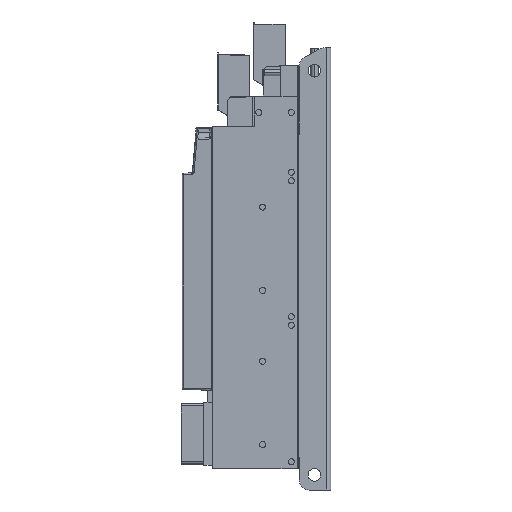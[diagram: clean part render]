
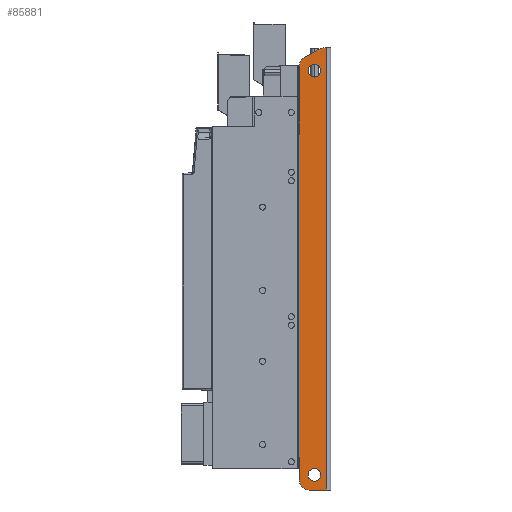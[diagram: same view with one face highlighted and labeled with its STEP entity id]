
A CAD part, left-side view. The second image highlights one B-rep face of the part: STEP entity #85881.
In plain terms, the highlighted planar face has unit normal (-1, 0, 0).
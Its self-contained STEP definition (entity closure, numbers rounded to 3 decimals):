
#313 = CARTESIAN_POINT ( 'NONE',  ( -163., 25., 774.727 ) ) ;
#922 = EDGE_CURVE ( 'NONE', #90921, #26706, #41604, .T. ) ;
#1933 = DIRECTION ( 'NONE',  ( -1., 0., 0. ) ) ;
#2049 = CARTESIAN_POINT ( 'NONE',  ( -163., 27., 640.5 ) ) ;
#2298 = AXIS2_PLACEMENT_3D ( 'NONE', #26685, #53855, #55220 ) ;
#2576 = DIRECTION ( 'NONE',  ( -1., 0., 0. ) ) ;
#2640 = VERTEX_POINT ( 'NONE', #72516 ) ;
#3329 = DIRECTION ( 'NONE',  ( -1., 0., 0. ) ) ;
#3362 = CARTESIAN_POINT ( 'NONE',  ( -163., 27., 536. ) ) ;
#3476 = CARTESIAN_POINT ( 'NONE',  ( -163., 5., -43.9 ) ) ;
#5220 = VERTEX_POINT ( 'NONE', #81267 ) ;
#5269 = VERTEX_POINT ( 'NONE', #83088 ) ;
#5716 = ORIENTED_EDGE ( 'NONE', *, *, #65851, .F. ) ;
#6692 = AXIS2_PLACEMENT_3D ( 'NONE', #88656, #2576, #31128 ) ;
#7665 = DIRECTION ( 'NONE',  ( 0., 0., -1. ) ) ;
#7868 = EDGE_CURVE ( 'NONE', #53401, #46712, #13822, .T. ) ;
#10401 = FACE_BOUND ( 'NONE', #50459, .T. ) ;
#10404 = CARTESIAN_POINT ( 'NONE',  ( -163., -5., -33.9 ) ) ;
#11983 = CARTESIAN_POINT ( 'NONE',  ( -163., 15., 792.047 ) ) ;
#12011 = ORIENTED_EDGE ( 'NONE', *, *, #7868, .F. ) ;
#12252 = ORIENTED_EDGE ( 'NONE', *, *, #18500, .T. ) ;
#13109 = EDGE_CURVE ( 'NONE', #67799, #73808, #37155, .T. ) ;
#13822 = LINE ( 'NONE', #28331, #62182 ) ;
#14606 = EDGE_CURVE ( 'NONE', #84038, #62669, #81191, .T. ) ;
#14767 = VECTOR ( 'NONE', #42991, 1000. ) ;
#14837 = LINE ( 'NONE', #28885, #66241 ) ;
#16779 = ORIENTED_EDGE ( 'NONE', *, *, #50221, .T. ) ;
#17023 = VECTOR ( 'NONE', #68209, 1000. ) ;
#17383 = DIRECTION ( 'NONE',  ( 0., 0., 1. ) ) ;
#18500 = EDGE_CURVE ( 'NONE', #5220, #84038, #57326, .T. ) ;
#20303 = VERTEX_POINT ( 'NONE', #60772 ) ;
#20940 = EDGE_CURVE ( 'NONE', #73453, #5220, #78604, .T. ) ;
#23068 = EDGE_CURVE ( 'NONE', #2640, #63879, #54679, .T. ) ;
#23134 = CARTESIAN_POINT ( 'NONE',  ( -163., 25., -63.9 ) ) ;
#23377 = CARTESIAN_POINT ( 'NONE',  ( -163., -29., -63.9 ) ) ;
#23560 = DIRECTION ( 'NONE',  ( -1., 0., 0. ) ) ;
#24186 = ORIENTED_EDGE ( 'NONE', *, *, #45339, .F. ) ;
#25361 = FACE_OUTER_BOUND ( 'NONE', #50199, .T. ) ;
#26369 = LINE ( 'NONE', #63785, #41371 ) ;
#26685 = CARTESIAN_POINT ( 'NONE',  ( -163., -5., -33.9 ) ) ;
#26706 = VERTEX_POINT ( 'NONE', #23377 ) ;
#26823 = DIRECTION ( 'NONE',  ( -1., 0., 0. ) ) ;
#27298 = DIRECTION ( 'NONE',  ( 0., 0., 1. ) ) ;
#28331 = CARTESIAN_POINT ( 'NONE',  ( -163., 27., 536. ) ) ;
#28457 = CARTESIAN_POINT ( 'NONE',  ( -163., 27., 0. ) ) ;
#28885 = CARTESIAN_POINT ( 'NONE',  ( -163., 27., 0. ) ) ;
#29853 = DIRECTION ( 'NONE',  ( 0., 0., -1. ) ) ;
#29893 = ORIENTED_EDGE ( 'NONE', *, *, #922, .T. ) ;
#30118 = ORIENTED_EDGE ( 'NONE', *, *, #82207, .F. ) ;
#31128 = DIRECTION ( 'NONE',  ( 0., 0., 1. ) ) ;
#31719 = LINE ( 'NONE', #54165, #17023 ) ;
#31907 = DIRECTION ( 'NONE',  ( -1., 0., 0. ) ) ;
#32312 = ORIENTED_EDGE ( 'NONE', *, *, #83559, .T. ) ;
#33616 = VERTEX_POINT ( 'NONE', #69149 ) ;
#34299 = CARTESIAN_POINT ( 'NONE',  ( -163., -5., 766.1 ) ) ;
#35490 = CARTESIAN_POINT ( 'NONE',  ( -163., -23.359, 811.1 ) ) ;
#37155 = LINE ( 'NONE', #23134, #56873 ) ;
#37574 = DIRECTION ( 'NONE',  ( 0., 0., 1. ) ) ;
#38252 = AXIS2_PLACEMENT_3D ( 'NONE', #57788, #3329, #17383 ) ;
#41371 = VECTOR ( 'NONE', #68953, 1000. ) ;
#41604 = LINE ( 'NONE', #63114, #14767 ) ;
#42222 = EDGE_CURVE ( 'NONE', #46712, #5269, #66190, .T. ) ;
#42991 = DIRECTION ( 'NONE',  ( 0., -1., 0. ) ) ;
#43439 = CARTESIAN_POINT ( 'NONE',  ( -163., 25., 0. ) ) ;
#45117 = DIRECTION ( 'NONE',  ( 0., -1., 0. ) ) ;
#45339 = EDGE_CURVE ( 'NONE', #33616, #20303, #66625, .T. ) ;
#45691 = CARTESIAN_POINT ( 'NONE',  ( -163., -29., 811.1 ) ) ;
#45859 = EDGE_CURVE ( 'NONE', #53401, #67799, #14837, .T. ) ;
#46712 = VERTEX_POINT ( 'NONE', #82839 ) ;
#47749 = CIRCLE ( 'NONE', #61190, 20. ) ;
#47948 = ORIENTED_EDGE ( 'NONE', *, *, #65339, .T. ) ;
#48642 = AXIS2_PLACEMENT_3D ( 'NONE', #10404, #23560, #37574 ) ;
#48973 = VECTOR ( 'NONE', #45117, 1000. ) ;
#49495 = ORIENTED_EDGE ( 'NONE', *, *, #70402, .T. ) ;
#49837 = CARTESIAN_POINT ( 'NONE',  ( -163., -18., 811.1 ) ) ;
#50199 = EDGE_LOOP ( 'NONE', ( #69931, #80495, #16779, #29893, #49495, #32312, #75879, #12252, #57897, #47948, #92472, #12011 ) ) ;
#50221 = EDGE_CURVE ( 'NONE', #73808, #90921, #47749, .T. ) ;
#50459 = EDGE_LOOP ( 'NONE', ( #24186, #5716 ) ) ;
#51560 = CARTESIAN_POINT ( 'NONE',  ( -163., 5., -63.9 ) ) ;
#52310 = LINE ( 'NONE', #79493, #59008 ) ;
#53401 = VERTEX_POINT ( 'NONE', #28457 ) ;
#53855 = DIRECTION ( 'NONE',  ( -1., 0., 0. ) ) ;
#53893 = DIRECTION ( 'NONE',  ( 0., 0., 1. ) ) ;
#54005 = DIRECTION ( 'NONE',  ( 0., 0., 1. ) ) ;
#54165 = CARTESIAN_POINT ( 'NONE',  ( -163., -29., -63.9 ) ) ;
#54679 = CIRCLE ( 'NONE', #48642, 12.5 ) ;
#55220 = DIRECTION ( 'NONE',  ( 0., 0., 1. ) ) ;
#56873 = VECTOR ( 'NONE', #7665, 1000. ) ;
#57326 = LINE ( 'NONE', #49837, #86947 ) ;
#57788 = CARTESIAN_POINT ( 'NONE',  ( -163., -23.359, 791.1 ) ) ;
#57897 = ORIENTED_EDGE ( 'NONE', *, *, #14606, .T. ) ;
#58572 = CARTESIAN_POINT ( 'NONE',  ( -163., 5., 774.727 ) ) ;
#59008 = VECTOR ( 'NONE', #29853, 1000. ) ;
#59203 = EDGE_LOOP ( 'NONE', ( #30118, #71730 ) ) ;
#60772 = CARTESIAN_POINT ( 'NONE',  ( -163., -5., 753.6 ) ) ;
#61190 = AXIS2_PLACEMENT_3D ( 'NONE', #3476, #83899, #54005 ) ;
#61293 = AXIS2_PLACEMENT_3D ( 'NONE', #3362, #31907, #53893 ) ;
#62182 = VECTOR ( 'NONE', #77954, 1000. ) ;
#62669 = VERTEX_POINT ( 'NONE', #313 ) ;
#63114 = CARTESIAN_POINT ( 'NONE',  ( -163., 25., -63.9 ) ) ;
#63195 = AXIS2_PLACEMENT_3D ( 'NONE', #58572, #1933, #85721 ) ;
#63785 = CARTESIAN_POINT ( 'NONE',  ( -163., 25., 811.1 ) ) ;
#63879 = VERTEX_POINT ( 'NONE', #87431 ) ;
#65339 = EDGE_CURVE ( 'NONE', #62669, #5269, #52310, .T. ) ;
#65851 = EDGE_CURVE ( 'NONE', #20303, #33616, #75453, .T. ) ;
#66190 = LINE ( 'NONE', #2049, #48973 ) ;
#66241 = VECTOR ( 'NONE', #85963, 1000. ) ;
#66625 = CIRCLE ( 'NONE', #89030, 12.5 ) ;
#67799 = VERTEX_POINT ( 'NONE', #43439 ) ;
#68209 = DIRECTION ( 'NONE',  ( 0., 0., 1. ) ) ;
#68953 = DIRECTION ( 'NONE',  ( 0., 1., 0. ) ) ;
#69149 = CARTESIAN_POINT ( 'NONE',  ( -163., -5., 778.6 ) ) ;
#69931 = ORIENTED_EDGE ( 'NONE', *, *, #45859, .T. ) ;
#70032 = CARTESIAN_POINT ( 'NONE',  ( -163., 25., -43.9 ) ) ;
#70402 = EDGE_CURVE ( 'NONE', #26706, #90201, #31719, .T. ) ;
#70444 = DIRECTION ( 'NONE',  ( 0., 0.866, -0.5 ) ) ;
#71730 = ORIENTED_EDGE ( 'NONE', *, *, #23068, .F. ) ;
#72516 = CARTESIAN_POINT ( 'NONE',  ( -163., -5., -46.4 ) ) ;
#73453 = VERTEX_POINT ( 'NONE', #35490 ) ;
#73808 = VERTEX_POINT ( 'NONE', #70032 ) ;
#75453 = CIRCLE ( 'NONE', #6692, 12.5 ) ;
#75879 = ORIENTED_EDGE ( 'NONE', *, *, #20940, .T. ) ;
#76347 = PLANE ( 'NONE',  #61293 ) ;
#77954 = DIRECTION ( 'NONE',  ( 0., 0., 1. ) ) ;
#78545 = CIRCLE ( 'NONE', #2298, 12.5 ) ;
#78604 = CIRCLE ( 'NONE', #38252, 20. ) ;
#79493 = CARTESIAN_POINT ( 'NONE',  ( -163., 25., 585. ) ) ;
#80495 = ORIENTED_EDGE ( 'NONE', *, *, #13109, .T. ) ;
#81191 = CIRCLE ( 'NONE', #63195, 20. ) ;
#81267 = CARTESIAN_POINT ( 'NONE',  ( -163., -13.359, 808.421 ) ) ;
#82207 = EDGE_CURVE ( 'NONE', #63879, #2640, #78545, .T. ) ;
#82839 = CARTESIAN_POINT ( 'NONE',  ( -163., 27., 640.5 ) ) ;
#83088 = CARTESIAN_POINT ( 'NONE',  ( -163., 25., 640.5 ) ) ;
#83559 = EDGE_CURVE ( 'NONE', #90201, #73453, #26369, .T. ) ;
#83781 = FACE_BOUND ( 'NONE', #59203, .T. ) ;
#83899 = DIRECTION ( 'NONE',  ( -1., 0., 0. ) ) ;
#84038 = VERTEX_POINT ( 'NONE', #11983 ) ;
#85721 = DIRECTION ( 'NONE',  ( 0., 0., 1. ) ) ;
#85881 = ADVANCED_FACE ( 'NONE', ( #25361, #83781, #10401 ), #76347, .T. ) ;
#85963 = DIRECTION ( 'NONE',  ( 0., -1., 0. ) ) ;
#86947 = VECTOR ( 'NONE', #70444, 1000. ) ;
#87431 = CARTESIAN_POINT ( 'NONE',  ( -163., -5., -21.4 ) ) ;
#88656 = CARTESIAN_POINT ( 'NONE',  ( -163., -5., 766.1 ) ) ;
#89030 = AXIS2_PLACEMENT_3D ( 'NONE', #34299, #26823, #27298 ) ;
#90201 = VERTEX_POINT ( 'NONE', #45691 ) ;
#90921 = VERTEX_POINT ( 'NONE', #51560 ) ;
#92472 = ORIENTED_EDGE ( 'NONE', *, *, #42222, .F. ) ;
